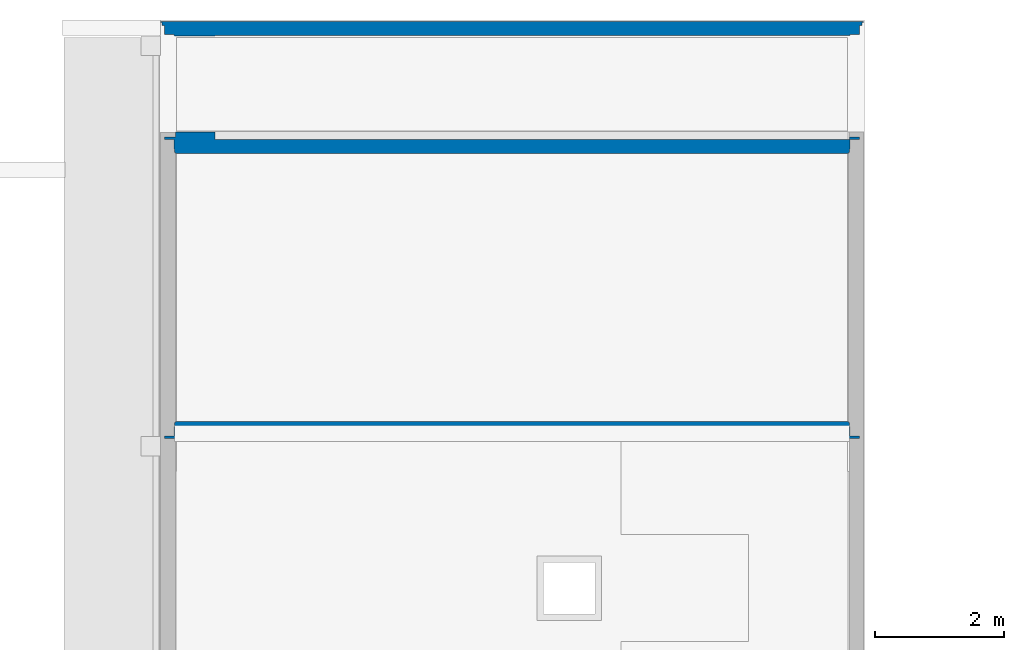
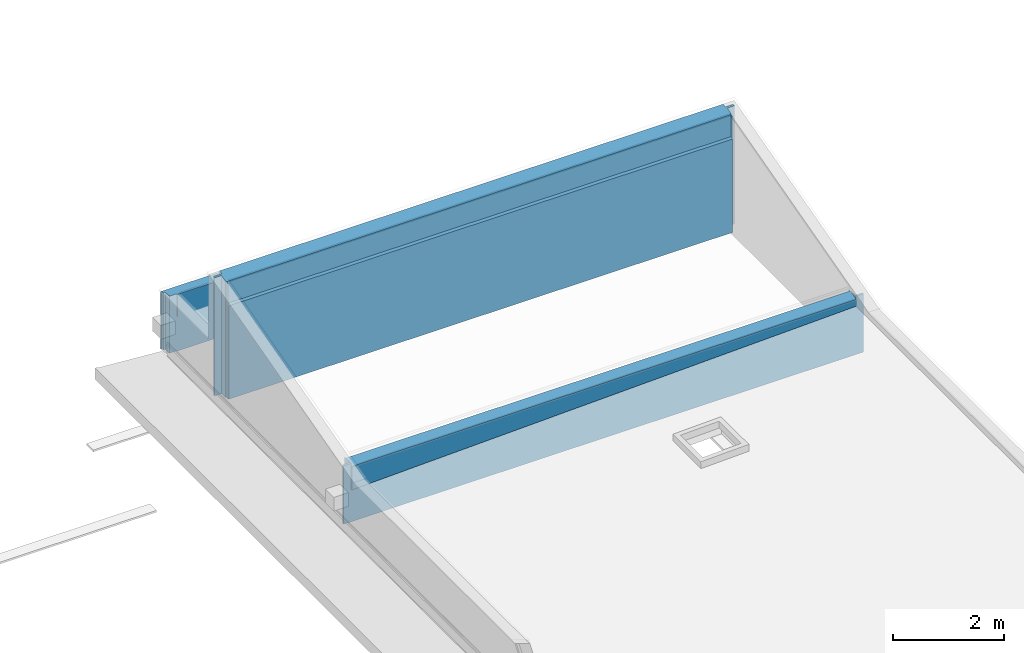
# One storey, part 5 of 8: 3 walls.
"""IFC2X3 building model written with IfcOpenShell, lengths in metres."""

from ifc_helpers import new_model, entity, si_unit, converted_unit, derived_unit, direction, frame, origin, place, context, subcontext, project, spatial, faceted_brep, type_object, element, save


model = new_model("IFC2X3")

# Units and contexts
model_context = context("Model", 3, precision=1e-05, world=origin(), true_north=direction((6.123031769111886e-17, 1.0)))
body_context = subcontext(model_context, "Body", "Model", "MODEL_VIEW")
ifc_project = project(units=[si_unit("LENGTHUNIT", "METRE"), si_unit("AREAUNIT", "SQUARE_METRE"), si_unit("VOLUMEUNIT", "CUBIC_METRE"), converted_unit("PLANEANGLEUNIT", "DEGREE", entity("IfcRatioMeasure", 0.017453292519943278), si_unit("PLANEANGLEUNIT", "RADIAN"), dimensions=[0, 0, 0, 0, 0, 0, 0]), si_unit("MASSUNIT", "GRAM", prefix="KILO"), derived_unit("MASSDENSITYUNIT", [(si_unit("MASSUNIT", "GRAM", prefix="KILO"), 1), (si_unit("LENGTHUNIT", "METRE"), -3)]), derived_unit("MOMENTOFINERTIAUNIT", [(si_unit("LENGTHUNIT", "METRE"), 4)]), si_unit("TIMEUNIT", "SECOND"), si_unit("FREQUENCYUNIT", "HERTZ"), si_unit("THERMODYNAMICTEMPERATUREUNIT", "DEGREE_CELSIUS"), derived_unit("THERMALTRANSMITTANCEUNIT", [(si_unit("MASSUNIT", "GRAM", prefix="KILO"), 1), (si_unit("THERMODYNAMICTEMPERATUREUNIT", "KELVIN"), -1), (si_unit("TIMEUNIT", "SECOND"), -3)]), derived_unit("THERMALCONDUCTANCEUNIT", [(si_unit("MASSUNIT", "GRAM", prefix="KILO"), 1), (si_unit("LENGTHUNIT", "METRE"), 1), (si_unit("THERMODYNAMICTEMPERATUREUNIT", "KELVIN"), -1), (si_unit("TIMEUNIT", "SECOND"), -3)]), derived_unit("VOLUMETRICFLOWRATEUNIT", [(si_unit("LENGTHUNIT", "METRE"), 3), (si_unit("TIMEUNIT", "SECOND"), -1)]), derived_unit("MASSFLOWRATEUNIT", [(si_unit("MASSUNIT", "GRAM", prefix="KILO"), 1), (si_unit("TIMEUNIT", "SECOND"), -1)]), derived_unit("ROTATIONALFREQUENCYUNIT", [(si_unit("TIMEUNIT", "SECOND"), -1)]), si_unit("ELECTRICCURRENTUNIT", "AMPERE"), si_unit("ELECTRICVOLTAGEUNIT", "VOLT"), si_unit("POWERUNIT", "WATT"), si_unit("FORCEUNIT", "NEWTON", prefix="KILO"), si_unit("ILLUMINANCEUNIT", "LUX"), si_unit("LUMINOUSFLUXUNIT", "LUMEN"), si_unit("LUMINOUSINTENSITYUNIT", "CANDELA"), derived_unit("USERDEFINED", [(si_unit("MASSUNIT", "GRAM", prefix="KILO"), -1), (si_unit("LENGTHUNIT", "METRE"), -2), (si_unit("TIMEUNIT", "SECOND"), 3), (si_unit("LUMINOUSFLUXUNIT", "LUMEN"), 1)]), derived_unit("USERDEFINED", [(si_unit("MASSUNIT", "GRAM", prefix="KILO"), 1), (si_unit("LENGTHUNIT", "METRE"), 3), (si_unit("TIMEUNIT", "SECOND"), -3), (si_unit("ELECTRICCURRENTUNIT", "AMPERE"), -2)]), derived_unit("USERDEFINED", [(si_unit("LENGTHUNIT", "METRE"), 2), (si_unit("TIMEUNIT", "SECOND"), -2)]), derived_unit("SOUNDPOWERUNIT", [(si_unit("MASSUNIT", "GRAM", prefix="KILO"), 1), (si_unit("LENGTHUNIT", "METRE"), 2), (si_unit("TIMEUNIT", "SECOND"), -3)]), derived_unit("SOUNDPRESSUREUNIT", [(si_unit("MASSUNIT", "GRAM", prefix="KILO"), 1), (si_unit("LENGTHUNIT", "METRE"), -1), (si_unit("TIMEUNIT", "SECOND"), -2)]), derived_unit("LINEARVELOCITYUNIT", [(si_unit("LENGTHUNIT", "METRE"), 1), (si_unit("TIMEUNIT", "SECOND"), -1)]), si_unit("PRESSUREUNIT", "PASCAL"), derived_unit("USERDEFINED", [(si_unit("LENGTHUNIT", "METRE"), -2), (si_unit("MASSUNIT", "GRAM", prefix="KILO"), 1), (si_unit("TIMEUNIT", "SECOND"), -2)]), derived_unit("LINEARFORCEUNIT", [(si_unit("MASSUNIT", "GRAM", prefix="KILO"), 1), (si_unit("LENGTHUNIT", "METRE"), 1), (si_unit("TIMEUNIT", "SECOND"), -2), (si_unit("LENGTHUNIT", "METRE"), -1)]), derived_unit("PLANARFORCEUNIT", [(si_unit("MASSUNIT", "GRAM", prefix="KILO"), 1), (si_unit("LENGTHUNIT", "METRE"), 1), (si_unit("TIMEUNIT", "SECOND"), -2), (si_unit("LENGTHUNIT", "METRE"), -2)]), derived_unit("SPECIFICHEATCAPACITYUNIT", [(si_unit("LENGTHUNIT", "METRE"), 2), (si_unit("TIMEUNIT", "SECOND"), -2), (si_unit("THERMODYNAMICTEMPERATUREUNIT", "KELVIN"), -1)]), derived_unit("VAPORPERMEABILITYUNIT", [(si_unit("TIMEUNIT", "SECOND"), 1), (si_unit("LENGTHUNIT", "METRE"), -1)]), derived_unit("DYNAMICVISCOSITYUNIT", [(si_unit("MASSUNIT", "GRAM", prefix="KILO"), 1), (si_unit("LENGTHUNIT", "METRE"), -1), (si_unit("TIMEUNIT", "SECOND"), -1)]), derived_unit("THERMALEXPANSIONCOEFFICIENTUNIT", [(si_unit("THERMODYNAMICTEMPERATUREUNIT", "KELVIN"), -1)])], contexts=[model_context])

# Site, building, storey
site_placement = place(None, origin())
site = spatial("IfcSite", under=ifc_project, at=site_placement, Name="Default", CompositionType="ELEMENT")
building_placement = place(site_placement, origin())
building = spatial("IfcBuilding", under=site, at=building_placement, CompositionType="ELEMENT")
storey_placement = place(building_placement, frame((0.0, 0.0, 6.059999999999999)))
storey = spatial("IfcBuildingStorey", under=building, at=storey_placement, Name="TOITURE", CompositionType="ELEMENT", Elevation=6.059999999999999)

# Walls
wall_type_1 = type_object("IfcWallType", Name="MurExt-018", PredefinedType="NOTDEFINED")
wall_1_placement = place(storey_placement, frame((141.40075228, 26.007209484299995, 0.71)))
element("IfcWall", 1, at=wall_1_placement, inside=storey, type_object=wall_type_1, Name="MurExt-018 810092:MurExt-018 810092", ObjectType="MurExt-018 810092:MurExt-018 810092", context=body_context, shape_type="Brep", body=[
    faceted_brep([(0.0, 0.23000000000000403, 0.0), (10.9, 0.23000000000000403, 0.0), (10.9, 0.20800000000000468, 0.0), (0.0, 0.20800000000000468, 0.0), (0.0, 0.23000000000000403, 1.2499999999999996), (10.9, 0.23000000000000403, 1.2499999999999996), (0.0, 0.20800000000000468, 1.2499999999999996), (10.9, 0.20800000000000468, 1.2499999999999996), (10.878000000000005, 0.20800000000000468, 1.2499999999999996), (0.021999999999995, 0.20800000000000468, 1.2499999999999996)], [[[0, 1, 2, 3]], [[1, 0, 4, 5]], [[0, 3, 6, 4]], [[3, 2, 7, 8, 9, 6]], [[2, 1, 5, 7]], [[5, 4, 6, 9, 8, 7]]]),
    faceted_brep([(10.878000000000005, 0.1680000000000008, 0.0), (0.021999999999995, 0.1680000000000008, 0.0), (0.021999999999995, 0.20800000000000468, 0.0), (10.878000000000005, 0.20800000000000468, 0.0), (0.021999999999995, 0.20800000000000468, 1.2499999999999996), (10.878000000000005, 0.20800000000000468, 1.2500000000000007), (10.878000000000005, 0.1680000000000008, 1.2499999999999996), (10.837999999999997, 0.1680000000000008, 1.2499999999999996), (0.06200000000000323, 0.1680000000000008, 1.2499999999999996), (0.021999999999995, 0.1680000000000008, 1.2499999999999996)], [[[0, 1, 2, 3]], [[3, 2, 4, 5]], [[1, 0, 6, 7, 8, 9]], [[9, 4, 2, 1]], [[5, 6, 0, 3]], [[4, 9, 8, 7, 6, 5]]]),
    faceted_brep([(10.837999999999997, 0.023000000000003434, 0.0), (0.06200000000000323, 0.023000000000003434, 0.0), (0.06200000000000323, 0.1680000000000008, 0.0), (10.837999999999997, 0.1680000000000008, 0.0), (0.06200000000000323, 0.1680000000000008, 1.2499999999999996), (10.837999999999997, 0.1680000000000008, 1.2500000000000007), (10.837999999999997, 0.023000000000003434, 1.2499999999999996), (10.693000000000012, 0.023000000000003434, 1.2499999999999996), (0.20699999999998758, 0.023000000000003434, 1.2499999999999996), (0.06200000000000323, 0.023000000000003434, 1.2499999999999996)], [[[0, 1, 2, 3]], [[3, 2, 4, 5]], [[1, 0, 6, 7, 8, 9]], [[9, 4, 2, 1]], [[5, 6, 0, 3]], [[4, 9, 8, 7, 6, 5]]]),
    faceted_brep([(10.693000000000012, 0.011000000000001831, 0.0), (0.20699999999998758, 0.011000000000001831, 0.0), (0.20699999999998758, 0.023000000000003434, 0.0), (10.693000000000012, 0.023000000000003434, 0.0), (0.20699999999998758, 0.023000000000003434, 1.2499999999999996), (10.693000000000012, 0.023000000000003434, 1.2500000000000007), (10.693000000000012, 0.011000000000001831, 1.2499999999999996), (10.681000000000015, 0.011000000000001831, 1.2499999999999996), (0.21899999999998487, 0.011000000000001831, 1.2499999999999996), (0.20699999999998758, 0.011000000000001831, 1.2499999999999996)], [[[0, 1, 2, 3]], [[3, 2, 4, 5]], [[1, 0, 6, 7, 8, 9]], [[9, 4, 2, 1]], [[5, 6, 0, 3]], [[4, 9, 8, 7, 6, 5]]]),
    faceted_brep([(0.21900000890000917, 0.011000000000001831, 0.7601408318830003), (0.21899999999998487, 0.011000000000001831, 1.2500000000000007), (10.681000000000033, 0.011000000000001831, 1.2500000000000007), (10.680999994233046, 0.011000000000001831, 1.1263108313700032), (0.2190000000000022, 0.0, 1.2500000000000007), (0.2190000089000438, 0.0, 0.7601408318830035), (10.680999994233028, 0.0, 1.126310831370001), (10.681000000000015, 0.0, 1.2500000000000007)], [[[0, 1, 2, 3]], [[4, 5, 6, 7]], [[4, 1, 0, 5]], [[1, 4, 7, 2]], [[2, 7, 6, 3]], [[5, 0, 3, 6]]]),
])
wall_type_2 = type_object("IfcWallType", Name="MurExt-019", PredefinedType="NOTDEFINED")
wall_2_placement = place(storey_placement, frame((141.40075228, 19.7472094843, 0.7600000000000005)))
element("IfcWall", 2, at=wall_2_placement, inside=storey, type_object=wall_type_2, Name="MurExt-019 825486:MurExt-019 825486", ObjectType="MurExt-019 825486:MurExt-019 825486", context=body_context, shape_type="Brep", body=[
    faceted_brep([(0.21900000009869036, 0.0, 1.2228911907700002), (0.2190000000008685, 0.0, 0.7101408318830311), (10.68100000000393, 0.0, 1.0763108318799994), (10.681000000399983, 0.0, 1.2228911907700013), (0.21899999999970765, 0.021999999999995, 0.7101408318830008), (0.2190000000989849, 0.021999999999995, 1.2288311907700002), (10.681000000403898, 0.021999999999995, 1.2288311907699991), (10.681000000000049, 0.021999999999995, 1.0763108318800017)], [[[0, 1, 2, 3]], [[4, 5, 6, 7]], [[0, 5, 4, 1]], [[5, 0, 3, 6]], [[6, 3, 2, 7]], [[1, 4, 7, 2]]]),
    faceted_brep([(0.06200000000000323, 0.0619999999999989, 1.2800000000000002), (0.06200000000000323, 0.021999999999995, 1.2800000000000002), (0.2190000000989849, 0.021999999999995, 1.2800000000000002), (0.2190000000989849, 0.0619999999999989, 1.2800000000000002), (0.06200000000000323, 0.021999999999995, 0.0), (0.06200000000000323, 0.0619999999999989, 0.0), (10.837999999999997, 0.0619999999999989, 0.0), (10.837999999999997, 0.021999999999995, 0.0), (10.837999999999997, 0.021999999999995, 1.2800000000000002), (10.681000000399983, 0.021999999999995, 1.2800000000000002), (10.681000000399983, 0.021999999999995, 1.2288311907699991), (0.2190000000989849, 0.021999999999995, 1.2288311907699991), (0.2190000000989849, 0.0619999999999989, 1.239631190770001), (10.681000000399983, 0.0619999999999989, 1.23963119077), (10.681000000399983, 0.0619999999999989, 1.2800000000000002), (10.837999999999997, 0.0619999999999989, 1.2800000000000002)], [[[0, 1, 2, 3]], [[4, 5, 6, 7]], [[1, 4, 7, 8, 9, 10, 11, 2]], [[5, 0, 3, 12, 13, 14, 15, 6]], [[1, 0, 5, 4]], [[11, 12, 3, 2]], [[13, 10, 9, 14]], [[12, 11, 10, 13]], [[15, 8, 7, 6]], [[14, 9, 8, 15]]]),
    faceted_brep([(0.20699999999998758, 0.2070000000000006, 1.2800000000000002), (0.20699999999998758, 0.0619999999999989, 1.2800000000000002), (0.2190000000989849, 0.0619999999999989, 1.2800000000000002), (0.2190000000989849, 0.2070000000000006, 1.2800000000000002), (0.20699999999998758, 0.0619999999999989, 0.0), (0.20699999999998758, 0.2070000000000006, 0.0), (10.693000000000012, 0.2070000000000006, 0.0), (10.693000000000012, 0.0619999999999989, 0.0), (10.693000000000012, 0.0619999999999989, 1.2800000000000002), (10.681000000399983, 0.0619999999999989, 1.2800000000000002), (10.681000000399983, 0.0619999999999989, 1.23963119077), (0.2190000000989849, 0.0619999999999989, 1.23963119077), (0.2190000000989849, 0.2070000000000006, 1.2787811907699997), (10.681000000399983, 0.2070000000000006, 1.2787811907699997), (10.681000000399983, 0.2070000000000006, 1.2800000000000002), (10.693000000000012, 0.2070000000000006, 1.2800000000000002)], [[[0, 1, 2, 3]], [[4, 5, 6, 7]], [[1, 4, 7, 8, 9, 10, 11, 2]], [[5, 0, 3, 12, 13, 14, 15, 6]], [[1, 0, 5, 4]], [[11, 12, 3, 2]], [[13, 10, 9, 14]], [[12, 11, 10, 13]], [[15, 8, 7, 6]], [[14, 9, 8, 15]]]),
    faceted_brep([(10.680999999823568, 0.21899999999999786, 1.2800000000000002), (0.21899999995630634, 0.21899999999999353, 1.2800000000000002), (0.2190000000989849, 0.21151410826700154, 1.2800000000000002), (10.681000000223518, 0.21151410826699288, 1.2800000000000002), (0.21899999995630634, 0.21899999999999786, 0.0), (10.68099999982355, 0.21899999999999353, 0.0), (10.681000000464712, 0.2070000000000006, 0.0), (0.21900000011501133, 0.20699999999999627, 0.0), (10.681000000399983, 0.2070000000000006, 1.2787811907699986), (0.21900000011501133, 0.2070000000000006, 1.2787811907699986)], [[[0, 1, 2, 3]], [[4, 5, 6, 7]], [[7, 6, 8, 9]], [[1, 0, 5, 4]], [[3, 8, 6, 5, 0]], [[8, 3, 2, 9]], [[9, 2, 1, 4, 7]]]),
    faceted_brep([(0.21899999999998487, 0.26699999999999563, 1.2800000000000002), (0.21899999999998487, 0.21899999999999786, 1.2800000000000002), (0.22000000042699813, 0.21899999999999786, 1.2800000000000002), (0.22000000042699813, 0.26699999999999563, 1.2800000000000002), (7.706999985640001, 0.21899999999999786, 0.0), (7.706999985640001, 0.26699999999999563, 0.0), (10.681000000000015, 0.26699999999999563, 0.0), (10.681000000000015, 0.21899999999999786, 0.0), (0.21899999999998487, 0.21899999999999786, 0.0), (7.102999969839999, 0.21899999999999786, 0.0), (7.102999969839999, 0.21899999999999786, 0.15000000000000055), (7.126999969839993, 0.21899999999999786, 0.15000000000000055), (7.126999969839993, 0.21899999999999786, 0.0), (7.662999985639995, 0.21899999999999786, 0.0), (7.662999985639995, 0.21899999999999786, 0.15000000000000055), (7.706999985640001, 0.21899999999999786, 0.15000000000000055), (10.681000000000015, 0.21899999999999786, 1.2800000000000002), (10.680000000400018, 0.21899999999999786, 1.2800000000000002), (10.680000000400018, 0.21899999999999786, 0.9091300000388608), (0.22000000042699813, 0.21899999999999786, 0.9091300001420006), (0.21899999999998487, 0.26699999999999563, 0.0), (0.22000000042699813, 0.26699999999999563, 0.9220900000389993), (10.680000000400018, 0.26699999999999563, 0.9220900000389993), (10.680000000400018, 0.26699999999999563, 1.2800000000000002), (10.681000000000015, 0.26699999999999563, 1.2800000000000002), (7.706999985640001, 0.26699999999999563, 0.15000000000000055), (7.662999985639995, 0.26699999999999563, 0.15000000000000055), (7.662999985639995, 0.26699999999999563, 0.0), (7.126999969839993, 0.26699999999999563, 0.0), (7.126999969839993, 0.26699999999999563, 0.15000000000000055), (7.102999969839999, 0.26699999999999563, 0.15000000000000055), (7.102999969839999, 0.26699999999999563, 0.0), (0.22000000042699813, 0.21900000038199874, 0.9091300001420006), (10.680000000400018, 0.21900000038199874, 0.9091300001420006)], [[[0, 1, 2, 3]], [[4, 5, 6, 7]], [[1, 8, 9, 10, 11, 12, 13, 14, 15, 4, 7, 16, 17, 18, 19, 2]], [[20, 0, 3, 21, 22, 23, 24, 6, 5, 25, 26, 27, 28, 29, 30, 31]], [[1, 0, 20, 8]], [[30, 10, 9, 31]], [[10, 30, 29, 11]], [[11, 29, 28, 12]], [[26, 14, 13, 27]], [[14, 26, 25, 15]], [[15, 25, 5, 4]], [[32, 21, 3, 2]], [[22, 18, 17, 23]], [[21, 19, 33, 22]], [[24, 16, 7, 6]], [[12, 28, 27, 13]], [[8, 20, 31, 9]], [[23, 17, 16, 24]]]),
    faceted_brep([(7.706999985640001, 0.26699999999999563, 0.0), (7.706999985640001, 0.279999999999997, 0.0), (10.669999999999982, 0.279999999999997, 0.0), (10.669999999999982, 0.26699999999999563, 0.0), (7.089999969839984, 0.26699999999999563, 0.0), (7.089999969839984, 0.26699999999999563, 0.15000000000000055), (7.139999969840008, 0.26699999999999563, 0.15000000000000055), (7.139999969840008, 0.26699999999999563, 0.0), (7.662999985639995, 0.26699999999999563, 0.0), (7.662999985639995, 0.26699999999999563, 0.15000000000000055), (7.706999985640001, 0.26699999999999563, 0.15000000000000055), (10.669999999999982, 0.26699999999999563, 0.9220900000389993), (0.22999999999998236, 0.26699999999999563, 0.9220900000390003), (0.22999999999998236, 0.26699999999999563, 0.0), (7.089999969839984, 0.279999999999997, 0.15000000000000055), (7.089999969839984, 0.279999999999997, 0.0), (0.22999999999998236, 0.279999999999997, 0.0), (0.22999999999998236, 0.279999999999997, 0.9256000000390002), (10.669999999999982, 0.279999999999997, 0.9256000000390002), (7.706999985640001, 0.279999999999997, 0.15000000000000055), (7.662999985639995, 0.279999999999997, 0.15000000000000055), (7.662999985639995, 0.279999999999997, 0.0), (7.139999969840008, 0.279999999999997, 0.0), (7.139999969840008, 0.279999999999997, 0.15000000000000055)], [[[0, 1, 2, 3]], [[4, 5, 6, 7, 8, 9, 10, 0, 3, 11, 12, 13]], [[14, 15, 16, 17, 18, 2, 1, 19, 20, 21, 22, 23]], [[14, 5, 4, 15]], [[5, 14, 23, 6]], [[6, 23, 22, 7]], [[20, 9, 8, 21]], [[9, 20, 19, 10]], [[10, 19, 1, 0]], [[12, 17, 16, 13]], [[18, 11, 3, 2]], [[17, 12, 11, 18]], [[7, 22, 21, 8]], [[15, 4, 13, 16]]]),
])
wall_type_3 = type_object("IfcWallType", Name="MurExt-019", PredefinedType="NOTDEFINED")
wall_3_placement = place(storey_placement, frame((141.40075228, 24.187209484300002, 0.7600000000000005)))
element("IfcWall", 3, at=wall_3_placement, inside=storey, type_object=wall_type_3, Name="MurExt-019 831445:MurExt-019 831445", ObjectType="MurExt-019 831445:MurExt-019 831445", context=body_context, shape_type="Brep", body=[
    faceted_brep([(0.22999999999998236, 0.2929999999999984, 2.60791000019), (0.22999999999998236, 0.2929999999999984, 0.7105258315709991), (10.669999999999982, 0.2929999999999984, 1.07592583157), (10.669999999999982, 0.2929999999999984, 2.60791000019), (0.22999999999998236, 0.32999999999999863, 0.7105258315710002), (0.22999999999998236, 0.32999999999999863, 2.61790000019), (10.669999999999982, 0.32999999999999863, 2.61790000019), (10.669999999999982, 0.32999999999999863, 1.07592583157)], [[[0, 1, 2, 3]], [[4, 5, 6, 7]], [[0, 5, 4, 1]], [[5, 0, 3, 6]], [[6, 3, 2, 7]], [[1, 4, 7, 2]]]),
    faceted_brep([(0.22999999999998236, 0.2579999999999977, 2.598460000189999), (0.22999999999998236, 0.2579999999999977, 0.7105258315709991), (10.669999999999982, 0.2579999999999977, 1.07592583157), (10.669999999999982, 0.2579999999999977, 2.59846000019), (0.22999999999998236, 0.2929999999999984, 0.7105258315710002), (0.22999999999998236, 0.2929999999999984, 2.6079100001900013), (10.669999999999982, 0.2929999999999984, 2.60791000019), (10.669999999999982, 0.2929999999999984, 1.07592583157)], [[[0, 1, 2, 3]], [[4, 5, 6, 7]], [[0, 5, 4, 1]], [[5, 0, 3, 6]], [[6, 3, 2, 7]], [[1, 4, 7, 2]]]),
    faceted_brep([(10.680999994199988, 0.21799999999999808, 0.0), (10.680999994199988, 0.2579999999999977, 0.0), (10.837999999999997, 0.2579999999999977, 0.0), (10.837999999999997, 0.21799999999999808, 0.0), (0.21900000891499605, 0.21799999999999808, 0.0), (0.21900000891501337, 0.21799999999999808, 0.7101408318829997), (10.680999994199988, 0.21799999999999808, 1.0763108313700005), (10.837999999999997, 0.21799999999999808, 2.58766000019), (10.693000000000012, 0.21799999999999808, 2.58766000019), (0.20699999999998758, 0.21799999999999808, 2.58766000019), (0.06200000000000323, 0.21799999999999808, 2.58766000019), (0.06200000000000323, 0.21799999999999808, 0.0), (0.21900000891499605, 0.2579999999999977, 0.7101408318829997), (0.21900000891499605, 0.2579999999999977, 0.0), (0.06200000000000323, 0.2579999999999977, 0.0), (0.06200000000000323, 0.2579999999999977, 2.59846000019), (10.837999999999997, 0.2579999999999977, 2.598460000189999), (10.680999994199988, 0.2579999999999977, 1.0763108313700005)], [[[0, 1, 2, 3]], [[4, 5, 6, 0, 3, 7, 8, 9, 10, 11]], [[12, 13, 14, 15, 16, 2, 1, 17]], [[12, 5, 4, 13]], [[5, 12, 17, 6]], [[6, 17, 1, 0]], [[10, 15, 14, 11]], [[16, 7, 3, 2]], [[15, 10, 9, 8, 7, 16]], [[13, 4, 11, 14]]]),
    faceted_brep([(0.20699999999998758, 0.21799999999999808, 0.0), (10.693000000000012, 0.21799999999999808, 0.0), (10.693000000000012, 0.0729999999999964, 0.0), (0.20699999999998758, 0.0729999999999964, 0.0), (10.693000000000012, 0.0729999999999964, 2.5485100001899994), (10.681000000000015, 0.0729999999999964, 2.5485100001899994), (0.21899999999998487, 0.0729999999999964, 2.5485100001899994), (0.20699999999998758, 0.0729999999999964, 2.5485100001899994), (0.20699999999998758, 0.21799999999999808, 2.587660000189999), (10.693000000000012, 0.21799999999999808, 2.587660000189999)], [[[0, 1, 2, 3]], [[3, 2, 4, 5, 6, 7]], [[1, 0, 8, 9]], [[7, 8, 0, 3]], [[9, 4, 2, 1]], [[8, 7, 6, 5, 4, 9]]]),
    faceted_brep([(0.21899999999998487, 0.0729999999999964, 0.0), (10.681000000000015, 0.0729999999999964, 0.0), (10.681000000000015, 0.060999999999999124, 0.0), (0.21899999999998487, 0.060999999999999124, 0.0), (10.681000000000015, 0.060999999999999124, 2.5452700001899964), (0.21899999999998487, 0.060999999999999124, 2.5452700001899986), (0.21899999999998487, 0.0729999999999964, 2.5485100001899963), (10.681000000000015, 0.0729999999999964, 2.5485100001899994)], [[[0, 1, 2, 3]], [[3, 2, 4, 5]], [[1, 0, 6, 7]], [[5, 6, 0, 3]], [[7, 4, 2, 1]], [[6, 5, 4, 7]]]),
    faceted_brep([(0.21899999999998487, 0.060999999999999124, 0.0), (10.681000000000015, 0.060999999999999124, 0.0), (10.681000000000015, 0.012999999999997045, 0.0), (0.21899999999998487, 0.012999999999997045, 0.0), (10.681000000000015, 0.012999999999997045, 2.53231000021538), (10.680000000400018, 0.012999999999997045, 2.532310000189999), (10.680000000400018, 0.012999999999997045, 2.0523100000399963), (0.22000000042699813, 0.012999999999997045, 2.0523100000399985), (0.22000000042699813, 0.012999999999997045, 2.5323100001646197), (0.21899999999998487, 0.012999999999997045, 2.5323100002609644), (0.21899999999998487, 0.060999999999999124, 2.5452700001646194), (0.22000000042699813, 0.060999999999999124, 2.54527000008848), (0.22000000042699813, 0.060999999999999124, 2.0652700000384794), (10.680000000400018, 0.060999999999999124, 2.0652700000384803), (10.680000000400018, 0.060999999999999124, 2.5452700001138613), (10.681000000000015, 0.060999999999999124, 2.54527000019), (10.680000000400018, 0.06100000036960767, 2.545270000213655), (10.680000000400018, 0.06100000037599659, 2.0652700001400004), (0.22000000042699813, 0.06100000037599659, 2.0652700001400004), (0.22000000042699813, 0.06100000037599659, 2.54527000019)], [[[0, 1, 2, 3]], [[3, 2, 4, 5, 6, 7, 8, 9]], [[1, 0, 10, 11, 12, 13, 14, 15]], [[9, 10, 0, 3]], [[15, 4, 2, 1]], [[4, 15, 16, 5]], [[5, 14, 17, 6]], [[6, 13, 18, 7]], [[7, 12, 19, 8]], [[10, 9, 8, 11]]]),
    faceted_brep([(0.22999999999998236, 0.012999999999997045, 0.0), (10.669999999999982, 0.012999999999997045, 0.0), (10.669999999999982, 0.0, 0.0), (0.22999999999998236, 0.0, 0.0), (10.669999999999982, 0.0, 2.04880000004), (0.22999999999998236, 0.0, 2.048800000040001), (0.22999999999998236, 0.012999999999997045, 2.0523100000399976), (10.669999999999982, 0.012999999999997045, 2.0523100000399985)], [[[0, 1, 2, 3]], [[3, 2, 4, 5]], [[1, 0, 6, 7]], [[5, 6, 0, 3]], [[7, 4, 2, 1]], [[6, 5, 4, 7]]]),
])

save(model, "model.ifc")
